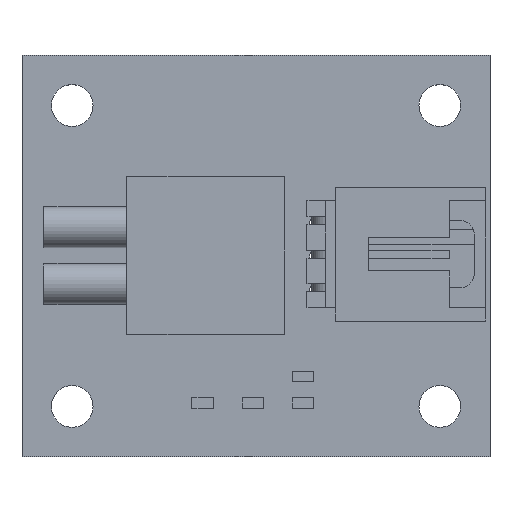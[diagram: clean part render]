
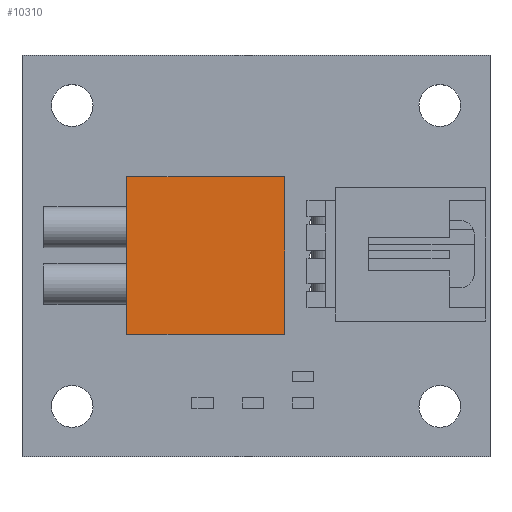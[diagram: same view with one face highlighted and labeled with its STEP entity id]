
A CAD part, top view. The second image highlights one B-rep face of the part: STEP entity #10310.
In plain terms, the highlighted planar face has unit normal (0, 0, 1).
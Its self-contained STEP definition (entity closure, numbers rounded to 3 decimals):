
#9996 = VERTEX_POINT('',#9997);
#9997 = CARTESIAN_POINT('',(-6.,6.,9.36));
#10004 = PLANE('',#10005);
#10005 = AXIS2_PLACEMENT_3D('',#10006,#10007,#10008);
#10006 = CARTESIAN_POINT('',(-6.,6.,0.));
#10007 = DIRECTION('',(0.,1.,0.));
#10008 = DIRECTION('',(1.,0.,0.));
#10016 = PLANE('',#10017);
#10017 = AXIS2_PLACEMENT_3D('',#10018,#10019,#10020);
#10018 = CARTESIAN_POINT('',(-6.,-6.,0.));
#10019 = DIRECTION('',(-1.,0.,0.));
#10020 = DIRECTION('',(0.,1.,0.));
#10028 = EDGE_CURVE('',#9996,#10029,#10031,.T.);
#10029 = VERTEX_POINT('',#10030);
#10030 = CARTESIAN_POINT('',(6.,6.,9.36));
#10031 = SURFACE_CURVE('',#10032,(#10036,#10043),.PCURVE_S1.);
#10032 = LINE('',#10033,#10034);
#10033 = CARTESIAN_POINT('',(-6.,6.,9.36));
#10034 = VECTOR('',#10035,1.);
#10035 = DIRECTION('',(1.,0.,0.));
#10036 = PCURVE('',#10004,#10037);
#10037 = DEFINITIONAL_REPRESENTATION('',(#10038),#10042);
#10038 = LINE('',#10039,#10040);
#10039 = CARTESIAN_POINT('',(0.,-9.36));
#10040 = VECTOR('',#10041,1.);
#10041 = DIRECTION('',(1.,0.));
#10042 = ( GEOMETRIC_REPRESENTATION_CONTEXT(2) 
PARAMETRIC_REPRESENTATION_CONTEXT() REPRESENTATION_CONTEXT('2D SPACE',''
  ) );
#10043 = PCURVE('',#10044,#10049);
#10044 = PLANE('',#10045);
#10045 = AXIS2_PLACEMENT_3D('',#10046,#10047,#10048);
#10046 = CARTESIAN_POINT('',(-6.,6.,9.36));
#10047 = DIRECTION('',(0.,0.,1.));
#10048 = DIRECTION('',(1.,0.,0.));
#10049 = DEFINITIONAL_REPRESENTATION('',(#10050),#10054);
#10050 = LINE('',#10051,#10052);
#10051 = CARTESIAN_POINT('',(0.,0.));
#10052 = VECTOR('',#10053,1.);
#10053 = DIRECTION('',(1.,0.));
#10054 = ( GEOMETRIC_REPRESENTATION_CONTEXT(2) 
PARAMETRIC_REPRESENTATION_CONTEXT() REPRESENTATION_CONTEXT('2D SPACE',''
  ) );
#10072 = PLANE('',#10073);
#10073 = AXIS2_PLACEMENT_3D('',#10074,#10075,#10076);
#10074 = CARTESIAN_POINT('',(6.,6.,0.));
#10075 = DIRECTION('',(1.,0.,0.));
#10076 = DIRECTION('',(0.,-1.,0.));
#10114 = EDGE_CURVE('',#10029,#10115,#10117,.T.);
#10115 = VERTEX_POINT('',#10116);
#10116 = CARTESIAN_POINT('',(6.,-6.,9.36));
#10117 = SURFACE_CURVE('',#10118,(#10122,#10129),.PCURVE_S1.);
#10118 = LINE('',#10119,#10120);
#10119 = CARTESIAN_POINT('',(6.,6.,9.36));
#10120 = VECTOR('',#10121,1.);
#10121 = DIRECTION('',(0.,-1.,0.));
#10122 = PCURVE('',#10072,#10123);
#10123 = DEFINITIONAL_REPRESENTATION('',(#10124),#10128);
#10124 = LINE('',#10125,#10126);
#10125 = CARTESIAN_POINT('',(0.,-9.36));
#10126 = VECTOR('',#10127,1.);
#10127 = DIRECTION('',(1.,0.));
#10128 = ( GEOMETRIC_REPRESENTATION_CONTEXT(2) 
PARAMETRIC_REPRESENTATION_CONTEXT() REPRESENTATION_CONTEXT('2D SPACE',''
  ) );
#10129 = PCURVE('',#10044,#10130);
#10130 = DEFINITIONAL_REPRESENTATION('',(#10131),#10135);
#10131 = LINE('',#10132,#10133);
#10132 = CARTESIAN_POINT('',(12.,0.));
#10133 = VECTOR('',#10134,1.);
#10134 = DIRECTION('',(0.,-1.));
#10135 = ( GEOMETRIC_REPRESENTATION_CONTEXT(2) 
PARAMETRIC_REPRESENTATION_CONTEXT() REPRESENTATION_CONTEXT('2D SPACE',''
  ) );
#10153 = PLANE('',#10154);
#10154 = AXIS2_PLACEMENT_3D('',#10155,#10156,#10157);
#10155 = CARTESIAN_POINT('',(6.,-6.,0.));
#10156 = DIRECTION('',(0.,-1.,0.));
#10157 = DIRECTION('',(-1.,0.,0.));
#10190 = EDGE_CURVE('',#10115,#10191,#10193,.T.);
#10191 = VERTEX_POINT('',#10192);
#10192 = CARTESIAN_POINT('',(-6.,-6.,9.36));
#10193 = SURFACE_CURVE('',#10194,(#10198,#10205),.PCURVE_S1.);
#10194 = LINE('',#10195,#10196);
#10195 = CARTESIAN_POINT('',(6.,-6.,9.36));
#10196 = VECTOR('',#10197,1.);
#10197 = DIRECTION('',(-1.,0.,0.));
#10198 = PCURVE('',#10153,#10199);
#10199 = DEFINITIONAL_REPRESENTATION('',(#10200),#10204);
#10200 = LINE('',#10201,#10202);
#10201 = CARTESIAN_POINT('',(0.,-9.36));
#10202 = VECTOR('',#10203,1.);
#10203 = DIRECTION('',(1.,0.));
#10204 = ( GEOMETRIC_REPRESENTATION_CONTEXT(2) 
PARAMETRIC_REPRESENTATION_CONTEXT() REPRESENTATION_CONTEXT('2D SPACE',''
  ) );
#10205 = PCURVE('',#10044,#10206);
#10206 = DEFINITIONAL_REPRESENTATION('',(#10207),#10211);
#10207 = LINE('',#10208,#10209);
#10208 = CARTESIAN_POINT('',(12.,-12.));
#10209 = VECTOR('',#10210,1.);
#10210 = DIRECTION('',(-1.,0.));
#10211 = ( GEOMETRIC_REPRESENTATION_CONTEXT(2) 
PARAMETRIC_REPRESENTATION_CONTEXT() REPRESENTATION_CONTEXT('2D SPACE',''
  ) );
#10261 = EDGE_CURVE('',#10191,#9996,#10262,.T.);
#10262 = SURFACE_CURVE('',#10263,(#10267,#10274),.PCURVE_S1.);
#10263 = LINE('',#10264,#10265);
#10264 = CARTESIAN_POINT('',(-6.,-6.,9.36));
#10265 = VECTOR('',#10266,1.);
#10266 = DIRECTION('',(0.,1.,0.));
#10267 = PCURVE('',#10016,#10268);
#10268 = DEFINITIONAL_REPRESENTATION('',(#10269),#10273);
#10269 = LINE('',#10270,#10271);
#10270 = CARTESIAN_POINT('',(0.,-9.36));
#10271 = VECTOR('',#10272,1.);
#10272 = DIRECTION('',(1.,0.));
#10273 = ( GEOMETRIC_REPRESENTATION_CONTEXT(2) 
PARAMETRIC_REPRESENTATION_CONTEXT() REPRESENTATION_CONTEXT('2D SPACE',''
  ) );
#10274 = PCURVE('',#10044,#10275);
#10275 = DEFINITIONAL_REPRESENTATION('',(#10276),#10280);
#10276 = LINE('',#10277,#10278);
#10277 = CARTESIAN_POINT('',(0.,-12.));
#10278 = VECTOR('',#10279,1.);
#10279 = DIRECTION('',(0.,1.));
#10280 = ( GEOMETRIC_REPRESENTATION_CONTEXT(2) 
PARAMETRIC_REPRESENTATION_CONTEXT() REPRESENTATION_CONTEXT('2D SPACE',''
  ) );
#10310 = ADVANCED_FACE('',(#10311),#10044,.T.);
#10311 = FACE_BOUND('',#10312,.F.);
#10312 = EDGE_LOOP('',(#10313,#10314,#10315,#10316));
#10313 = ORIENTED_EDGE('',*,*,#10028,.T.);
#10314 = ORIENTED_EDGE('',*,*,#10114,.T.);
#10315 = ORIENTED_EDGE('',*,*,#10190,.T.);
#10316 = ORIENTED_EDGE('',*,*,#10261,.T.);
